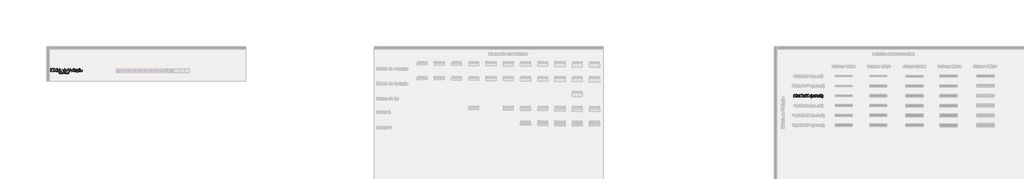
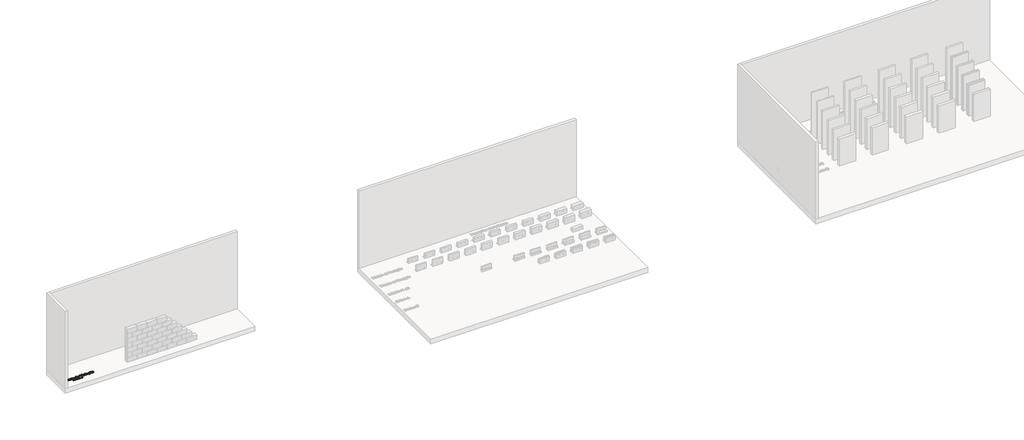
# One storey, part 15 of 26: 3 proxies.
"""IFC4 building model written with IfcOpenShell, lengths in millimetres."""

from ifc_helpers import new_model, si_unit, origin, origin_with_axes, place, context, project, spatial, polyline, outline, extrude, element, save

model = new_model("IFC4")

# Units and contexts
model_context = context("Model", 3, world=origin())
ifc_project = project(units=[si_unit("LENGTHUNIT", "METRE", prefix="MILLI")], contexts=[model_context])

# Site, building, storey
site = spatial("IfcSite", under=ifc_project)
building = spatial("IfcBuilding", under=site)
storey = spatial("IfcBuildingStorey", under=building, Name="Catálogo Celucon", Elevation=0.0)

# Proxies
placement = place(None, origin())
element("IfcBuildingElementProxy", 1, Name="Legenda Tabela de Módulos", ObjectType="Legenda Tabela de Módulos", at=placement, inside=storey, context=model_context, shape_type="SweptSolid", body=[
    extrude(outline(polyline([(-35045.4519368, 905.3239878), (-35045.4519368, 1056.0084531), (-35013.041533, 1056.0084531), (-34982.2130218, 949.800921), (-34975.9958161, 927.6176367), (-34969.2635756, 951.640331), (-34938.9500992, 1056.0084531), (-34906.5396954, 1056.0084531), (-34906.5396954, 905.3239878), (-34925.3752536, 905.3239878), (-34925.3752536, 1037.1728949), (-34963.2303109, 905.3239878), (-34988.7613214, 905.3239878), (-35026.6163787, 1037.1728949), (-35026.6163787, 905.3239878), (-35045.4519368, 905.3239878)])), origin_with_axes(), (0.0, 0.0, 1.0), 20.0),
    extrude(outline(polyline([(-34880.640803, 960.6534399), (-34876.5665099, 987.3340816), (-34864.3436306, 1006.0868663), (-34849.2420747, 1015.2747191), (-34831.1606746, 1018.3373367), (-34811.3732218, 1014.607933), (-34795.5680916, 1003.4197218), (-34785.2076149, 985.65562), (-34781.7541227, 962.1985443), (-34783.280833, 943.1698481), (-34787.8609638, 928.6844945), (-34795.361158, 917.8365742), (-34805.6480583, 909.7201777), (-34817.866339, 904.6572017), (-34831.1606746, 902.9695431), (-34851.1872507, 906.6851512), (-34866.9739869, 917.8319757), (-34877.2240989, 935.968558), (-34880.640803, 960.6534399)]), holes=[polyline([(-34861.8052448, 960.6902281), (-34859.625544, 943.6434962), (-34853.0864415, 931.4987918), (-34843.2455982, 924.2285239), (-34831.1606746, 921.8051012), (-34819.1309334, 924.2423194), (-34809.3084841, 931.5539741), (-34802.7693816, 943.8596268), (-34800.5896808, 961.2788393), (-34802.7831772, 977.8289306), (-34809.3636664, 989.808088), (-34819.1999113, 997.078356), (-34831.1606746, 999.5017786), (-34843.2455982, 997.087553), (-34853.0864415, 989.8448762), (-34859.625544, 977.727763), (-34861.8052448, 960.6902281)])]), origin_with_axes(), (0.0, 0.0, 1.0), 20.0),
    extrude(outline(polyline([(-34845.3241314, 1027.7551158), (-34831.1974628, 1056.0084531), (-34807.6530151, 1056.0084531), (-34831.1974628, 1027.7551158), (-34845.3241314, 1027.7551158)])), origin_with_axes(), (0.0, 0.0, 1.0), 20.0),
    extrude(outline(polyline([(-34692.2852214, 905.3239878), (-34692.2852214, 923.0926882), (-34704.747224, 908.0003293), (-34721.9732985, 902.9695431), (-34734.1501925, 904.7905589), (-34745.297017, 910.2536066), (-34754.7331901, 918.9770084), (-34761.7781303, 930.5790868), (-34766.1651231, 944.5907923), (-34767.6274541, 960.5430753), (-34762.2379828, 990.5254579), (-34755.5057423, 1002.4172434), (-34746.0879632, 1011.1636378), (-34734.697417, 1016.543912), (-34722.0468749, 1018.3373367), (-34704.6828447, 1013.2053829), (-34692.2852214, 999.8696606), (-34692.2852214, 1056.0084531), (-34673.4496633, 1056.0084531), (-34673.4496633, 905.3239878), (-34692.2852214, 905.3239878)]), holes=[polyline([(-34748.7918959, 960.6166517), (-34746.6673774, 943.5791168), (-34740.2938218, 931.4620036), (-34731.0323926, 924.2193268), (-34720.2442531, 921.8051012), (-34709.4607121, 924.1089622), (-34700.4338076, 931.0205452), (-34694.322368, 942.6686089), (-34692.2852214, 959.1819119), (-34694.3591562, 977.2357208), (-34700.5809604, 989.7529057), (-34709.8377911, 997.0645604), (-34721.0168053, 999.5017786), (-34731.9153094, 997.1611294), (-34740.8456448, 990.1391818), (-34746.8053331, 978.0772509), (-34748.7918959, 960.6166517)])]), origin_with_axes(), (0.0, 0.0, 1.0), 20.0),
    extrude(outline(polyline([(-34574.562983, 905.3239878), (-34574.562983, 924.343487), (-34589.315051, 908.313029), (-34608.5552793, 902.9695431), (-34626.2687974, 906.7219394), (-34638.4824797, 916.1397185), (-34644.0926801, 930.0088697), (-34645.1963261, 947.5200527), (-34645.1963261, 1015.982892), (-34626.3607679, 1015.982892), (-34626.3607679, 956.3860088), (-34625.2203337, 937.1825686), (-34617.7707233, 925.9069855), (-34603.7360252, 921.8051012), (-34588.0090699, 925.998956), (-34577.6164036, 937.4216919), (-34574.562983, 958.4093597), (-34574.562983, 1015.982892), (-34555.7274248, 1015.982892), (-34555.7274248, 905.3239878), (-34574.562983, 905.3239878)])), origin_with_axes(), (0.0, 0.0, 1.0), 20.0),
    extrude(outline(polyline([(-34529.8285324, 905.3239878), (-34529.8285324, 1056.0084531), (-34510.9929742, 1056.0084531), (-34510.9929742, 905.3239878), (-34529.8285324, 905.3239878)])), origin_with_axes(), (0.0, 0.0, 1.0), 20.0),
    extrude(outline(polyline([(-34487.4485265, 960.6534399), (-34483.3742334, 987.3340816), (-34471.1513541, 1006.0868663), (-34456.0497982, 1015.2747191), (-34437.9683982, 1018.3373367), (-34418.1809454, 1014.607933), (-34402.3758151, 1003.4197218), (-34392.0153385, 985.65562), (-34388.5618462, 962.1985443), (-34390.0885565, 943.1698481), (-34394.6686873, 928.6844945), (-34402.1688815, 917.8365742), (-34412.4557818, 909.7201777), (-34424.6740626, 904.6572017), (-34437.9683982, 902.9695431), (-34457.9949743, 906.6851512), (-34473.7817104, 917.8319757), (-34484.0318225, 935.968558), (-34487.4485265, 960.6534399)]), holes=[polyline([(-34468.6129684, 960.6902281), (-34466.4332676, 943.6434962), (-34459.8941651, 931.4987918), (-34450.0533217, 924.2285239), (-34437.9683982, 921.8051012), (-34425.9386569, 924.2423194), (-34416.1162077, 931.5539741), (-34409.5771052, 943.8596268), (-34407.3974044, 961.2788393), (-34409.5909008, 977.8289306), (-34416.17139, 989.808088), (-34426.0076348, 997.078356), (-34437.9683982, 999.5017786), (-34450.0533217, 997.087553), (-34459.8941651, 989.8448762), (-34466.4332676, 977.727763), (-34468.6129684, 960.6902281)])]), origin_with_axes(), (0.0, 0.0, 1.0), 20.0),
    extrude(outline(polyline([(-34240.2318258, 905.3239878), (-34240.2318258, 923.0926882), (-34252.6938284, 908.0003293), (-34269.9199028, 902.9695431), (-34282.0967968, 904.7905589), (-34293.2436213, 910.2536066), (-34302.6797945, 918.9770084), (-34309.7247347, 930.5790868), (-34314.1117275, 944.5907923), (-34315.5740584, 960.5430753), (-34310.1845872, 990.5254579), (-34303.4523466, 1002.4172434), (-34294.0345676, 1011.1636378), (-34282.6440213, 1016.543912), (-34269.9934792, 1018.3373367), (-34252.629449, 1013.2053829), (-34240.2318258, 999.8696606), (-34240.2318258, 1056.0084531), (-34221.3962676, 1056.0084531), (-34221.3962676, 905.3239878), (-34240.2318258, 905.3239878)]), holes=[polyline([(-34296.7385002, 960.6166517), (-34294.6139817, 943.5791168), (-34288.2404261, 931.4620036), (-34278.9789969, 924.2193268), (-34268.1908574, 921.8051012), (-34257.4073164, 924.1089622), (-34248.380412, 931.0205452), (-34242.2689723, 942.6686089), (-34240.2318258, 959.1819119), (-34242.3057605, 977.2357208), (-34248.5275648, 989.7529057), (-34257.7843955, 997.0645604), (-34268.9634096, 999.5017786), (-34279.8619137, 997.1611294), (-34288.7922491, 990.1391818), (-34294.7519375, 978.0772509), (-34296.7385002, 960.6166517)])]), origin_with_axes(), (0.0, 0.0, 1.0), 20.0),
    extrude(outline(polyline([(-34115.6669822, 938.2862146), (-34097.199306, 935.9317698), (-34103.8533716, 922.0166334), (-34114.4713657, 911.6147699), (-34128.814165, 905.1308498), (-34146.6426462, 902.9695431), (-34168.7431571, 906.6989468), (-34185.7485023, 917.887158), (-34196.5918241, 935.8076097), (-34200.2062647, 959.7337349), (-34196.5550359, 984.464602), (-34185.6013495, 1002.9598693), (-34168.8259305, 1014.4929699), (-34147.709504, 1018.3373367), (-34127.2506665, 1014.5021669), (-34110.9029104, 1002.9966575), (-34100.1837487, 984.5381784), (-34096.6106949, 959.8440995), (-34096.7210595, 954.767328), (-34181.3707065, 954.767328), (-34178.1103524, 940.6682505), (-34170.5365818, 930.3031753), (-34159.605888, 923.9296197), (-34146.2747642, 921.8051012), (-34127.807088, 925.7414386), (-34115.6669822, 938.2862146)]), holes=[polyline([(-34181.3707065, 973.6028861), (-34115.446253, 973.6028861), (-34117.9938358, 983.5540941), (-34122.9878339, 990.6726107), (-34133.9691115, 997.2944866), (-34147.7830804, 999.5017786), (-34160.4796077, 997.7405435), (-34170.9780402, 992.4568384), (-34178.2758993, 984.2208802), (-34181.3707065, 973.6028861)])]), origin_with_axes(), (0.0, 0.0, 1.0), 20.0),
    extrude(outline(polyline([(-33972.0458513, 905.3239878), (-34032.0106165, 1056.0084531), (-34011.8506832, 1056.0084531), (-33971.7147575, 947.4464763), (-33963.5845654, 922.9823236), (-33955.5647379, 947.4464763), (-33915.3184476, 1056.0084531), (-33895.1585143, 1056.0084531), (-33952.5848937, 905.3239878), (-33972.0458513, 905.3239878)])), origin_with_axes(), (0.0, 0.0, 1.0), 20.0),
    extrude(outline(polyline([(-33802.5258279, 938.2862146), (-33784.0581518, 935.9317698), (-33790.7122173, 922.0166334), (-33801.3302114, 911.6147699), (-33815.6730107, 905.1308498), (-33833.5014919, 902.9695431), (-33855.6020028, 906.6989468), (-33872.607348, 917.887158), (-33883.4506698, 935.8076097), (-33887.0651104, 959.7337349), (-33883.4138816, 984.464602), (-33872.4601952, 1002.9598693), (-33855.6847762, 1014.4929699), (-33834.5683497, 1018.3373367), (-33814.1095122, 1014.5021669), (-33797.7617561, 1002.9966575), (-33787.0425944, 984.5381784), (-33783.4695406, 959.8440995), (-33783.5799052, 954.767328), (-33868.2295523, 954.767328), (-33864.9691981, 940.6682505), (-33857.3954275, 930.3031753), (-33846.4647337, 923.9296197), (-33833.1336099, 921.8051012), (-33814.6659338, 925.7414386), (-33802.5258279, 938.2862146)]), holes=[polyline([(-33868.2295523, 973.6028861), (-33802.3050987, 973.6028861), (-33804.8526815, 983.5540941), (-33809.8466796, 990.6726107), (-33820.8279572, 997.2944866), (-33834.6419261, 999.5017786), (-33847.3384535, 997.7405435), (-33857.8368859, 992.4568384), (-33865.134745, 984.2208802), (-33868.2295523, 973.6028861)])]), origin_with_axes(), (0.0, 0.0, 1.0), 20.0),
    extrude(outline(polyline([(-33696.3550841, 905.3239878), (-33696.3550841, 923.0926882), (-33708.8170867, 908.0003293), (-33726.0431611, 902.9695431), (-33738.2200552, 904.7905589), (-33749.3668796, 910.2536066), (-33758.8030528, 918.9770084), (-33765.847993, 930.5790868), (-33770.2349858, 944.5907923), (-33771.6973167, 960.5430753), (-33766.3078455, 990.5254579), (-33759.575605, 1002.4172434), (-33750.1578259, 1011.1636378), (-33738.7672796, 1016.543912), (-33726.1167375, 1018.3373367), (-33708.7527073, 1013.2053829), (-33696.3550841, 999.8696606), (-33696.3550841, 1056.0084531), (-33677.519526, 1056.0084531), (-33677.519526, 905.3239878), (-33696.3550841, 905.3239878)]), holes=[polyline([(-33752.8617586, 960.6166517), (-33750.73724, 943.5791168), (-33744.3636845, 931.4620036), (-33735.1022552, 924.2193268), (-33724.3141157, 921.8051012), (-33713.5305748, 924.1089622), (-33704.5036703, 931.0205452), (-33698.3922307, 942.6686089), (-33696.3550841, 959.1819119), (-33698.4290189, 977.2357208), (-33704.6508231, 989.7529057), (-33713.9076538, 997.0645604), (-33725.0866679, 999.5017786), (-33735.985172, 997.1611294), (-33744.9155075, 990.1391818), (-33750.8751958, 978.0772509), (-33752.8617586, 960.6166517)])]), origin_with_axes(), (0.0, 0.0, 1.0), 20.0),
    extrude(outline(polyline([(-33578.6328456, 919.4506564), (-33596.8981867, 906.6851512), (-33617.0765141, 902.9695431), (-33632.817265, 905.2044262), (-33644.4285405, 911.9090755), (-33651.5884438, 922.0902098), (-33653.9750783, 934.7545474), (-33650.3698347, 949.6537682), (-33640.8968733, 960.4694989), (-33627.7083038, 966.6499164), (-33611.4111314, 969.4826078), (-33578.7432102, 975.9573309), (-33578.6328456, 980.1511856), (-33579.9296297, 988.5572892), (-33583.8199818, 994.0571251), (-33592.520391, 998.1406152), (-33604.6421027, 999.5017786), (-33623.6983901, 995.8781409), (-33632.7850753, 983.0206652), (-33651.6206335, 985.37511), (-33643.4720473, 1003.7692097), (-33627.0645103, 1014.5481522), (-33602.2140815, 1018.3373367), (-33579.3870037, 1014.9896106), (-33566.4927398, 1006.583507), (-33560.7169925, 993.7996077), (-33559.7972875, 977.3184943), (-33559.7972875, 953.8844112), (-33558.8407943, 921.1613077), (-33555.088398, 905.3239878), (-33573.9239561, 905.3239878), (-33578.6328456, 919.4506564)]), holes=[polyline([(-33578.6328456, 957.1217728), (-33609.0198985, 951.3460254), (-33625.2251003, 948.2926049), (-33632.5643461, 943.3261979), (-33635.1395201, 936.0789226), (-33629.5293197, 925.8885914), (-33613.0666004, 921.8051012), (-33594.010313, 926.3116557), (-33581.7230544, 937.2193568), (-33578.7432102, 951.7874838), (-33578.6328456, 957.1217728)])]), origin_with_axes(), (0.0, 0.0, 1.0), 20.0),
    extrude(outline(polyline([(-33463.265052, 945.3495489), (-33444.4294938, 942.9951041), (-33449.6810093, 926.2426778), (-33459.5494438, 913.5829386), (-33473.1058953, 905.622892), (-33489.9130554, 903.06037), (-33492.5484588, 895.0968684), (-33477.8147849, 890.0936732), (-33472.682831, 881.0805643), (-33474.5406351, 874.3299297), (-33480.1140473, 868.4254237), (-33489.4398559, 864.3143424), (-33502.554849, 862.943982), (-33517.4172817, 862.943982), (-33517.4172817, 874.7162058), (-33507.0062212, 874.7162058), (-33492.3645178, 876.8867096), (-33489.1639444, 880.9334115), (-33490.4515314, 883.600556), (-33495.2156032, 885.5871188), (-33506.233669, 886.4884297), (-33500.9968545, 905.1082144), (-33509.457235, 906.6713556), (-33525.1244095, 917.7767934), (-33535.2365658, 935.7984126), (-33538.6072846, 960.2487697), (-33537.1679463, 977.0103931), (-33532.8499313, 991.5371334), (-33525.5842619, 1003.2679705), (-33515.3019602, 1011.6418844), (-33503.000906, 1016.6634737), (-33489.6789792, 1018.3373367), (-33473.7634844, 1016.0380743), (-33461.0393659, 1009.1402869), (-33451.9112939, 998.0118565), (-33446.7839386, 983.0206652), (-33465.6194967, 980.6662204), (-33474.3566941, 994.774495), (-33489.5318264, 999.5017786), (-33501.7041219, 997.174925), (-33511.3656228, 990.1943641), (-33517.6702005, 978.183017), (-33519.7717264, 960.7638045), (-33517.7161858, 943.1100673), (-33511.5495638, 931.0573334), (-33502.0628069, 924.1181593), (-33490.0468612, 921.8051012), (-33480.2933898, 923.249038), (-33472.2965549, 927.5808485), (-33466.4794209, 934.9108973), (-33463.265052, 945.3495489)])), origin_with_axes(), (0.0, 0.0, 1.0), 20.0),
    extrude(outline(polyline([(-33357.3150374, 919.4506564), (-33375.5803784, 906.6851512), (-33395.7587058, 902.9695431), (-33411.4994567, 905.2044262), (-33423.1107322, 911.9090755), (-33430.2706355, 922.0902098), (-33432.65727, 934.7545474), (-33429.0520264, 949.6537682), (-33419.579065, 960.4694989), (-33406.3904955, 966.6499164), (-33390.0933231, 969.4826078), (-33357.4254019, 975.9573309), (-33357.3150374, 980.1511856), (-33358.6118214, 988.5572892), (-33362.5021735, 994.0571251), (-33371.2025827, 998.1406152), (-33383.3242944, 999.5017786), (-33402.3805818, 995.8781409), (-33411.467267, 983.0206652), (-33430.3028252, 985.37511), (-33422.154239, 1003.7692097), (-33405.746702, 1014.5481522), (-33380.8962732, 1018.3373367), (-33358.0691954, 1014.9896106), (-33345.1749315, 1006.583507), (-33339.3991842, 993.7996077), (-33338.4794792, 977.3184943), (-33338.4794792, 953.8844112), (-33337.522986, 921.1613077), (-33333.7705897, 905.3239878), (-33352.6061478, 905.3239878), (-33357.3150374, 919.4506564)]), holes=[polyline([(-33357.3150374, 957.1217728), (-33387.7020902, 951.3460254), (-33403.907292, 948.2926049), (-33411.2465378, 943.3261979), (-33413.8217118, 936.0789226), (-33408.2115114, 925.8885914), (-33391.7487921, 921.8051012), (-33372.6925047, 926.3116557), (-33360.4052461, 937.2193568), (-33357.4254019, 951.7874838), (-33357.3150374, 957.1217728)])]), origin_with_axes(), (0.0, 0.0, 1.0), 20.0),
    extrude(outline(polyline([(-33416.1761566, 1027.7551158), (-33414.7506138, 1039.3342016), (-33410.3268329, 1048.3197194), (-33403.6589717, 1054.0862696), (-33395.3540357, 1056.0084531), (-33380.2708738, 1049.9384001), (-33372.6557165, 1046.590674), (-33368.6641969, 1048.4852663), (-33366.7328164, 1056.0084531), (-33350.251703, 1056.0084531), (-33351.8933764, 1043.647618), (-33356.2297855, 1034.8184501), (-33362.681516, 1029.5209494), (-33370.6691538, 1027.7551158), (-33385.5683746, 1033.4940749), (-33393.5146257, 1037.1728949), (-33398.002786, 1034.7816619), (-33399.6950432, 1027.7551158), (-33416.1761566, 1027.7551158)])), origin_with_axes(), (0.0, 0.0, 1.0), 20.0),
    extrude(outline(polyline([(-33317.2894763, 960.6534399), (-33313.2151832, 987.3340816), (-33300.9923039, 1006.0868663), (-33285.890748, 1015.2747191), (-33267.8093479, 1018.3373367), (-33248.0218951, 1014.607933), (-33232.2167649, 1003.4197218), (-33221.8562882, 985.65562), (-33218.402796, 962.1985443), (-33219.9295063, 943.1698481), (-33224.5096371, 928.6844945), (-33232.0098313, 917.8365742), (-33242.2967316, 909.7201777), (-33254.5150123, 904.6572017), (-33267.8093479, 902.9695431), (-33287.835924, 906.6851512), (-33303.6226602, 917.8319757), (-33313.8727722, 935.968558), (-33317.2894763, 960.6534399)]), holes=[polyline([(-33298.4539181, 960.6902281), (-33296.2742173, 943.6434962), (-33289.7351148, 931.4987918), (-33279.8942715, 924.2285239), (-33267.8093479, 921.8051012), (-33255.7796067, 924.2423194), (-33245.9571574, 931.5539741), (-33239.4180549, 943.8596268), (-33237.2383541, 961.2788393), (-33239.4318505, 977.8289306), (-33246.0123397, 989.808088), (-33255.8485846, 997.078356), (-33267.8093479, 999.5017786), (-33279.8942715, 997.087553), (-33289.7351148, 989.8448762), (-33296.2742173, 977.727763), (-33298.4539181, 960.6902281)])]), origin_with_axes(), (0.0, 0.0, 1.0), 20.0),
])
element("IfcBuildingElementProxy", 2, Name="Dimensões", ObjectType="Dimensões", at=placement, inside=storey, context=model_context, shape_type="SweptSolid", body=[
    extrude(outline(polyline([(-34514.9609767, 788.5616779), (-34514.9609767, 782.2831585), (-34547.9232035, 782.2831585), (-34547.2487532, 786.6119033), (-34543.4350432, 793.2766988), (-34535.5746312, 800.5546309), (-34524.7343751, 811.0147423), (-34522.024311, 818.1271275), (-34524.5810909, 823.8844808), (-34531.2581491, 826.2327942), (-34538.2172502, 823.9396631), (-34540.8598692, 817.59983), (-34547.1383886, 818.3846449), (-34542.3252658, 828.8938073), (-34531.1232591, 832.5113136), (-34519.8844641, 828.4891371), (-34515.7457917, 818.5072723), (-34516.8617004, 812.5537153), (-34520.5711772, 806.3978233), (-34529.5658919, 797.7955159), (-34536.7886418, 791.7561199), (-34539.6213331, 788.5616779), (-34514.9609767, 788.5616779)])), origin_with_axes(), (0.0, 0.0, 1.0), 20.0),
    extrude(outline(polyline([(-34508.6824574, 806.9925658), (-34506.836916, 821.4441969), (-34501.3554743, 829.7767241), (-34492.201344, 832.5113136), (-34484.8682295, 830.8926328), (-34479.8037207, 826.2266628), (-34476.8606648, 818.7954465), (-34475.7202306, 806.9925658), (-34477.5473778, 792.6022485), (-34483.0104255, 784.2513272), (-34492.201344, 781.4983436), (-34503.6792622, 786.2808095), (-34507.4316586, 794.7758179), (-34508.6824574, 806.9925658)]), holes=[polyline([(-34502.403938, 807.0048286), (-34499.460882, 791.4127633), (-34492.201344, 787.7768629), (-34484.9418059, 791.4250261), (-34481.99875, 807.0048286), (-34484.8437041, 822.4190842), (-34492.2749204, 826.2327942), (-34499.3627801, 822.8728053), (-34502.403938, 807.0048286)])]), origin_with_axes(), (0.0, 0.0, 1.0), 20.0),
    extrude(outline(polyline([(-34472.5809709, 782.2831585), (-34459.1655408, 800.824411), (-34471.796156, 819.1694599), (-34464.2423123, 819.1694599), (-34458.1477339, 810.340292), (-34455.3027799, 806.1709627), (-34452.8379705, 809.5800025), (-34445.8972635, 819.1694599), (-34438.3434199, 819.1694599), (-34451.6116972, 800.824411), (-34438.8339292, 782.2831585), (-34446.3877728, 782.2831585), (-34454.0765065, 793.4299829), (-34455.4867208, 795.4655966), (-34465.0271273, 782.2831585), (-34472.5809709, 782.2831585)])), origin_with_axes(), (0.0, 0.0, 1.0), 20.0),
    extrude(outline(polyline([(-34434.9098546, 795.6250122), (-34428.6313352, 796.4098271), (-34425.1671131, 789.8002139), (-34418.6862586, 787.7768629), (-34411.0588386, 790.5605034), (-34408.2261472, 797.4521594), (-34411.0343131, 803.9452766), (-34418.1712238, 806.5143192), (-34422.573545, 805.8276062), (-34421.8745692, 812.1061256), (-34413.7443771, 813.8351709), (-34410.580592, 819.3779263), (-34412.8737231, 824.289151), (-34418.7843605, 826.2327942), (-34424.7685743, 824.2707569), (-34427.8465203, 818.3846449), (-34434.1250397, 819.1694599), (-34428.9869545, 829.0164346), (-34419.0050897, 832.5113136), (-34411.4328519, 830.7883996), (-34406.1353512, 826.07951), (-34404.3020726, 819.7458083), (-34406.0433807, 813.9577983), (-34411.1937286, 809.8007317), (-34404.3511235, 805.5087751), (-34401.9476278, 797.3417948), (-34406.7546192, 786.1091312), (-34418.9069878, 781.4983436), (-34429.9189222, 785.4346809), (-34434.9098546, 795.6250122)])), origin_with_axes(), (0.0, 0.0, 1.0), 20.0),
    extrude(outline(polyline([(-34396.4539234, 806.9925658), (-34394.608382, 821.4441969), (-34389.1269403, 829.7767241), (-34379.97281, 832.5113136), (-34372.6396955, 830.8926328), (-34367.5751867, 826.2266628), (-34364.6321308, 818.7954465), (-34363.4916966, 806.9925658), (-34365.3188438, 792.6022485), (-34370.7818915, 784.2513272), (-34379.97281, 781.4983436), (-34391.4507282, 786.2808095), (-34395.2031246, 794.7758179), (-34396.4539234, 806.9925658)]), holes=[polyline([(-34390.175404, 807.0048286), (-34387.232348, 791.4127633), (-34379.97281, 787.7768629), (-34372.7132719, 791.4250261), (-34369.770216, 807.0048286), (-34372.6151701, 822.4190842), (-34380.0463864, 826.2327942), (-34387.1342461, 822.8728053), (-34390.175404, 807.0048286)])]), origin_with_axes(), (0.0, 0.0, 1.0), 20.0),
    extrude(outline(polyline([(-34360.3524369, 782.2831585), (-34346.9370068, 800.824411), (-34359.567622, 819.1694599), (-34352.0137783, 819.1694599), (-34345.9192, 810.340292), (-34343.0742459, 806.1709627), (-34340.6094365, 809.5800025), (-34333.6687295, 819.1694599), (-34326.1148859, 819.1694599), (-34339.3831632, 800.824411), (-34326.6053952, 782.2831585), (-34334.1592388, 782.2831585), (-34341.8479725, 793.4299829), (-34343.2581869, 795.4655966), (-34352.7985933, 782.2831585), (-34360.3524369, 782.2831585)])), origin_with_axes(), (0.0, 0.0, 1.0), 20.0),
    extrude(outline(polyline([(-34290.5039087, 819.1694599), (-34296.7824281, 818.3846449), (-34299.1613984, 823.620832), (-34305.4521805, 826.2327942), (-34311.1175632, 824.7122153), (-34315.4033885, 819.003913), (-34317.1876161, 807.814169), (-34311.6509921, 812.8234955), (-34304.7899929, 814.4605703), (-34294.121415, 809.9846727), (-34289.7190938, 798.4209153), (-34291.7914957, 789.7572944), (-34297.4936667, 783.6259278), (-34305.7219606, 781.4983436), (-34318.5181227, 787.1392008), (-34322.2291323, 794.6072053), (-34323.4661355, 805.7295043), (-34322.0927094, 818.2344265), (-34317.9724311, 826.7846172), (-34312.3469022, 831.0796395), (-34305.059773, 832.5113136), (-34295.1392219, 828.9673837), (-34290.5039087, 819.1694599)]), holes=[polyline([(-34317.1876161, 798.5190172), (-34315.7344822, 793.080495), (-34311.8717213, 789.131895), (-34306.2124699, 787.7768629), (-34298.8119105, 790.5850288), (-34295.9976132, 798.2124489), (-34298.7751223, 805.5149065), (-34306.4699873, 808.1820509), (-34314.0667505, 805.5149065), (-34317.1876161, 798.5190172)])]), origin_with_axes(), (0.0, 0.0, 1.0), 20.0),
    extrude(outline(polyline([(-34284.2253894, 806.9925658), (-34282.379848, 821.4441969), (-34276.8984063, 829.7767241), (-34267.744276, 832.5113136), (-34260.4111615, 830.8926328), (-34255.3466527, 826.2266628), (-34252.4035968, 818.7954465), (-34251.2631626, 806.9925658), (-34253.0903098, 792.6022485), (-34258.5533575, 784.2513272), (-34267.744276, 781.4983436), (-34279.2221942, 786.2808095), (-34282.9745906, 794.7758179), (-34284.2253894, 806.9925658)]), holes=[polyline([(-34277.94687, 807.0048286), (-34275.003814, 791.4127633), (-34267.744276, 787.7768629), (-34260.4847379, 791.4250261), (-34257.541682, 807.0048286), (-34260.3866361, 822.4190842), (-34267.8178524, 826.2327942), (-34274.9057122, 822.8728053), (-34277.94687, 807.0048286)])]), origin_with_axes(), (0.0, 0.0, 1.0), 20.0),
    extrude(outline(polyline([(-34212.0224164, 768.1564899), (-34220.9374235, 782.8840324), (-34224.5794552, 800.3706899), (-34221.8571284, 815.6377927), (-34212.0224164, 832.5113136), (-34207.3135269, 832.5113136), (-34213.1873761, 822.566237), (-34216.7190432, 812.9277287), (-34218.3009358, 800.3339017), (-34215.5540836, 784.2390644), (-34207.3135269, 768.1564899), (-34212.0224164, 768.1564899)])), origin_with_axes(), (0.0, 0.0, 1.0), 20.0),
    extrude(outline(polyline([(-34200.2501926, 782.2831585), (-34200.2501926, 832.5113136), (-34193.9716732, 832.5113136), (-34193.9716732, 788.5616779), (-34168.8575957, 788.5616779), (-34168.8575957, 782.2831585), (-34200.2501926, 782.2831585)])), origin_with_axes(), (0.0, 0.0, 1.0), 20.0),
    extrude(outline(polyline([(-34132.3269136, 782.2831585), (-34112.2773448, 832.5113136), (-34106.9307932, 832.5113136), (-34086.8812244, 782.2831585), (-34093.5153631, 782.2831585), (-34099.2665849, 797.9794569), (-34119.9538158, 797.9794569), (-34125.6927749, 782.2831585), (-34132.3269136, 782.2831585)]), holes=[polyline([(-34117.6484219, 804.2579763), (-34101.559716, 804.2579763), (-34106.0846646, 816.6065486), (-34109.604069, 826.2327942), (-34112.7310659, 817.6856692), (-34117.6484219, 804.2579763)])]), origin_with_axes(), (0.0, 0.0, 1.0), 20.0),
    extrude(outline(polyline([(-34166.5031509, 782.2831585), (-34153.0877208, 800.824411), (-34165.718336, 819.1694599), (-34158.1644923, 819.1694599), (-34152.069914, 810.340292), (-34149.2249599, 806.1709627), (-34146.7601505, 809.5800025), (-34139.8194435, 819.1694599), (-34132.2655999, 819.1694599), (-34145.5338772, 800.824411), (-34132.7561092, 782.2831585), (-34140.3099528, 782.2831585), (-34147.9986865, 793.4299829), (-34149.4089009, 795.4655966), (-34158.9493073, 782.2831585), (-34166.5031509, 782.2831585)])), origin_with_axes(), (0.0, 0.0, 1.0), 20.0),
    extrude(outline(polyline([(-34084.8823989, 782.2831585), (-34071.4669688, 800.824411), (-34084.097584, 819.1694599), (-34076.5437404, 819.1694599), (-34070.449162, 810.340292), (-34067.6042079, 806.1709627), (-34065.1393985, 809.5800025), (-34058.1986915, 819.1694599), (-34050.6448479, 819.1694599), (-34063.9131252, 800.824411), (-34051.1353572, 782.2831585), (-34058.6892009, 782.2831585), (-34066.3779346, 793.4299829), (-34067.7881489, 795.4655966), (-34077.3285553, 782.2831585), (-34084.8823989, 782.2831585)])), origin_with_axes(), (0.0, 0.0, 1.0), 20.0),
    extrude(outline(polyline([(-34009.5401663, 800.137698), (-34003.2616469, 798.5190172), (-34010.7051259, 785.8577452), (-34023.8507759, 781.4983436), (-34036.9167181, 784.7970188), (-34044.5809263, 794.3496879), (-34047.2112826, 807.7773808), (-34044.2375698, 821.4258028), (-34035.7824153, 830.2733648), (-34023.7158858, 833.2961285), (-34011.140453, 829.3843166), (-34004.0464618, 818.3723822), (-34010.3249812, 816.8763288), (-34015.4753292, 824.5957193), (-34023.9611405, 827.0176091), (-34033.7835898, 824.3320705), (-34039.3324765, 817.1215834), (-34040.9327632, 807.7896435), (-34039.0381709, 796.9739128), (-34033.1397963, 790.0638627), (-34024.4761753, 787.7768629), (-34014.8683239, 790.8915972), (-34009.5401663, 800.137698)])), origin_with_axes(), (0.0, 0.0, 1.0), 20.0),
    extrude(outline(polyline([(-33993.8438678, 768.1564899), (-33998.5527574, 768.1564899), (-33990.3122007, 784.2390644), (-33987.5653485, 800.3339017), (-33989.147241, 812.8173641), (-33992.64212, 822.4681351), (-33998.5527574, 832.5113136), (-33993.8438678, 832.5113136), (-33984.0091558, 815.6377927), (-33981.2868291, 800.3706899), (-33984.9472549, 782.8840324), (-33993.8438678, 768.1564899)])), origin_with_axes(), (0.0, 0.0, 1.0), 20.0),
])
element("IfcBuildingElementProxy", 3, Name="Legenda Tabela de Módulos", ObjectType="Legenda Tabela de Módulos", at=placement, inside=storey, context=model_context, shape_type="SweptSolid", body=[
    extrude(outline(polyline([(8064.530611, -512.6861609), (8065.914767, -488.5668976), (8070.067235, -469.3312678), (8076.9466283, -454.6849658), (8086.5115602, -444.3336862), (8098.8310085, -438.1808598), (8113.9739511, -436.1299177), (8135.9732944, -440.98596), (8151.1668208, -454.98387), (8159.9959887, -477.2775189), (8163.4172913, -512.6861609), (8162.0469309, -536.6674685), (8157.9358496, -555.857113), (8151.097843, -570.5172106), (8141.5467067, -580.9098769), (8129.1996672, -587.10409), (8113.9739511, -589.1688277), (8094.402629, -585.5819783), (8079.5401964, -574.8214299), (8068.2830073, -549.3364047), (8064.530611, -512.6861609)]), holes=[polyline([(8083.3661691, -512.6493727), (8085.5734611, -542.2776689), (8092.195337, -559.4255684), (8102.0545745, -567.6063443), (8113.9739511, -570.3332696), (8125.8933278, -567.5971472), (8135.7525652, -559.3887802), (8142.3744412, -542.2316836), (8144.5817331, -512.6493727), (8142.4480176, -483.6878626), (8136.0468708, -466.4066059), (8126.2060275, -457.8257584), (8113.7532219, -454.9654759), (8101.962604, -457.4854675), (8092.4896426, -465.0454425), (8085.6470375, -483.4027541), (8083.3661691, -512.6493727)])]), origin_with_axes(), (0.0, 0.0, 1.0), 20.0),
    extrude(outline(polyline([(8182.2528494, -549.1432666), (8201.0884076, -546.7888219), (8204.3073751, -557.4803923), (8209.5496935, -564.7598573), (8216.6866042, -568.9399165), (8225.5893485, -570.3332696), (8240.8380572, -566.7464201), (8251.1755412, -557.1630941), (8257.3375647, -540.7923453), (8260.0598914, -518.9401548), (8259.9495268, -515.2613349), (8244.8847591, -529.5351563), (8224.2281851, -535.016598), (8207.0526944, -531.6688719), (8192.7558804, -521.6256934), (8183.1127736, -506.1102702), (8179.8984047, -486.3458101), (8183.2691235, -465.9283593), (8193.3812798, -449.9254925), (8208.5702077, -439.5788114), (8227.1712411, -436.1299177), (8241.2197347, -438.0980864), (8254.0082326, -444.0025924), (8264.7044016, -453.5491302), (8272.4759088, -466.4433941), (8277.2077909, -484.2672768), (8278.785085, -508.6026708), (8277.2123894, -534.4049942), (8272.4943029, -554.3487969), (8264.6722119, -569.3353896), (8253.7875034, -580.2660834), (8240.3092268, -586.9431416), (8224.7064317, -589.1688277), (8208.6023973, -586.54307), (8195.7541187, -578.6657967), (8186.7686009, -566.0336487), (8182.2528494, -549.1432666)]), holes=[polyline([(8259.9495268, -485.9043517), (8257.9169788, -473.1388464), (8251.8193347, -463.3163972), (8242.3555704, -457.0532062), (8230.2246616, -454.9654759), (8217.6430974, -457.2141546), (8207.5631307, -463.9601906), (8200.9412548, -474.2838791), (8198.7339628, -487.265515), (8200.8216931, -498.9043817), (8207.0848841, -508.1428183), (8216.9165304, -514.1714845), (8229.7096268, -516.1810399), (8241.7439666, -514.1714845), (8251.4330586, -508.1428183), (8257.8204098, -498.5640908), (8259.9495268, -485.9043517)])]), origin_with_axes(), (0.0, 0.0, 1.0), 20.0),
    extrude(outline(polyline([(8288.2028641, -586.8143829), (8328.4491543, -531.1906253), (8290.5573088, -476.1554788), (8313.2188397, -476.1554788), (8331.5025749, -502.6429824), (8340.0374372, -515.1509703), (8347.4318653, -504.9238508), (8368.2539862, -476.1554788), (8390.9155171, -476.1554788), (8351.1106852, -531.1906253), (8389.4439891, -586.8143829), (8366.7824582, -586.8143829), (8343.7162571, -553.3739096), (8339.4856142, -547.2670685), (8310.864395, -586.8143829), (8288.2028641, -586.8143829)])), origin_with_axes(), (0.0, 0.0, 1.0), 20.0),
    extrude(outline(polyline([(8401.216213, -546.7888219), (8420.0517711, -544.4343771), (8424.2686185, -556.2709803), (8430.4444375, -564.2632166), (8438.8827308, -568.8157563), (8449.8870009, -570.3332696), (8462.799659, -568.2455392), (8472.769261, -561.9823483), (8479.1428166, -552.6381456), (8481.2673351, -541.3073801), (8479.1612107, -530.5514303), (8472.8428374, -521.8280285), (8463.2779056, -516.0476826), (8451.4321053, -514.1209007), (8438.2251417, -516.1810399), (8440.3220691, -497.3454817), (8443.3387014, -497.5662109), (8464.7126453, -492.1583456), (8471.8311619, -485.2973464), (8474.2040008, -475.5300794), (8472.4841525, -467.3952888), (8467.3246075, -460.7964055), (8459.4519328, -456.4232083), (8449.5926953, -454.9654759), (8439.7150638, -456.4370038), (8431.640054, -460.8515878), (8425.744745, -468.2092277), (8422.4062159, -478.5099236), (8403.5706577, -476.1554788), (8409.1164788, -459.2421041), (8418.9849133, -446.6145546), (8432.4861826, -438.7510769), (8448.9305077, -436.1299177), (8471.6472209, -441.2986597), (8487.5397231, -455.4253284), (8493.039559, -474.4264334), (8487.8156346, -491.7904636), (8472.3645908, -504.2616632), (8484.1552088, -509.0257351), (8492.8924062, -517.1375331), (8498.3002715, -528.1555988), (8500.1028933, -541.6384739), (8496.4976497, -559.9957855), (8485.6819191, -575.3364647), (8469.3571555, -585.710737), (8449.2248133, -589.1688277), (8431.0146546, -586.2165747), (8416.1890102, -577.3598157), (8405.8791173, -563.8125612), (8401.216213, -546.7888219)])), origin_with_axes(), (0.0, 0.0, 1.0), 20.0),
    extrude(outline(polyline([(8516.5840067, -512.6861609), (8517.9681627, -488.5668976), (8522.1206307, -469.3312678), (8529.000024, -454.6849658), (8538.5649559, -444.3336862), (8550.8844042, -438.1808598), (8566.0273468, -436.1299177), (8588.0266901, -440.98596), (8603.2202165, -454.98387), (8612.0493844, -477.2775189), (8615.470687, -512.6861609), (8614.1003265, -536.6674685), (8609.9892452, -555.857113), (8603.1512386, -570.5172106), (8593.6001023, -580.9098769), (8581.2530629, -587.10409), (8566.0273468, -589.1688277), (8546.4560247, -585.5819783), (8531.5935921, -574.8214299), (8520.336403, -549.3364047), (8516.5840067, -512.6861609)]), holes=[polyline([(8535.4195648, -512.6493727), (8537.6268568, -542.2776689), (8544.2487327, -559.4255684), (8554.1079702, -567.6063443), (8566.0273468, -570.3332696), (8577.9467235, -567.5971472), (8587.8059609, -559.3887802), (8594.4278368, -542.2316836), (8596.6351288, -512.6493727), (8594.5014132, -483.6878626), (8588.1002665, -466.4066059), (8578.2594231, -457.8257584), (8565.8066176, -454.9654759), (8554.0159997, -457.4854675), (8544.5430383, -465.0454425), (8537.7004332, -483.4027541), (8535.4195648, -512.6493727)])]), origin_with_axes(), (0.0, 0.0, 1.0), 20.0),
    extrude(outline(polyline([(8624.888466, -586.8143829), (8665.1347563, -531.1906253), (8627.2429108, -476.1554788), (8649.9044417, -476.1554788), (8668.1881769, -502.6429824), (8676.7230392, -515.1509703), (8684.1174673, -504.9238508), (8704.9395882, -476.1554788), (8727.6011191, -476.1554788), (8687.7962872, -531.1906253), (8726.1295911, -586.8143829), (8703.4680602, -586.8143829), (8680.4018591, -553.3739096), (8676.1712162, -547.2670685), (8647.5499969, -586.8143829), (8624.888466, -586.8143829)])), origin_with_axes(), (0.0, 0.0, 1.0), 20.0),
    extrude(outline(polyline([(8834.4340505, -476.1554788), (8815.5984923, -478.5099236), (8808.4615816, -462.8013624), (8799.9175223, -456.9244475), (8789.5892353, -454.9654759), (8772.5930871, -459.5272126), (8759.7356114, -476.6521195), (8755.8314637, -490.6822191), (8754.3829283, -510.2213515), (8770.9928004, -495.193372), (8791.5757981, -490.2821474), (8808.9766164, -493.6390706), (8823.5815316, -503.7098402), (8833.4867544, -519.0965047), (8836.7884953, -538.4011124), (8835.2341938, -551.888586), (8830.5712895, -564.3919753), (8823.1860585, -574.9961738), (8813.4647768, -582.7860751), (8801.8489028, -587.5731396), (8788.7798949, -589.1688277), (8767.4105495, -584.9381848), (8750.3914087, -572.2462559), (8739.2583798, -549.8422424), (8735.5473702, -516.4753455), (8739.6676485, -478.960579), (8752.0284836, -453.3100069), (8768.9050701, -440.42494), (8790.7664577, -436.1299177), (8807.2935563, -438.7878651), (8820.5281111, -446.7617074), (8829.7987374, -459.4260451), (8834.4340505, -476.1554788)]), holes=[polyline([(8754.3829283, -538.1068068), (8758.74233, -554.4223733), (8770.3306128, -566.2681735), (8787.3083669, -570.3332696), (8799.7381798, -568.2271451), (8809.5100453, -561.9087719), (8815.8422142, -551.975958), (8817.9529371, -539.0265118), (8815.8698053, -526.5966989), (8809.6204099, -517.119139), (8799.6829975, -511.1180639), (8786.5358147, -509.1177056), (8774.1243959, -511.1180639), (8763.7455251, -517.119139), (8756.7235775, -526.3667726), (8754.3829283, -538.1068068)])]), origin_with_axes(), (0.0, 0.0, 1.0), 20.0),
    extrude(outline(polyline([(8853.2696086, -512.6861609), (8854.6537646, -488.5668976), (8858.8062327, -469.3312678), (8865.685626, -454.6849658), (8875.2505579, -444.3336862), (8887.5700062, -438.1808598), (8902.7129488, -436.1299177), (8924.7122921, -440.98596), (8939.9058185, -454.98387), (8948.7349864, -477.2775189), (8952.1562889, -512.6861609), (8950.7859285, -536.6674685), (8946.6748472, -555.857113), (8939.8368406, -570.5172106), (8930.2857043, -580.9098769), (8917.9386649, -587.10409), (8902.7129488, -589.1688277), (8883.1416267, -585.5819783), (8868.279194, -574.8214299), (8857.022005, -549.3364047), (8853.2696086, -512.6861609)]), holes=[polyline([(8872.1051668, -512.6493727), (8874.3124588, -542.2776689), (8880.9343347, -559.4255684), (8890.7935722, -567.6063443), (8902.7129488, -570.3332696), (8914.6323254, -567.5971472), (8924.4915629, -559.3887802), (8931.1134388, -542.2316836), (8933.3207308, -512.6493727), (8931.1870152, -483.6878626), (8924.7858685, -466.4066059), (8914.9450251, -457.8257584), (8902.4922196, -454.9654759), (8890.7016017, -457.4854675), (8881.2286403, -465.0454425), (8874.3860352, -483.4027541), (8872.1051668, -512.6493727)])]), origin_with_axes(), (0.0, 0.0, 1.0), 20.0),
    extrude(outline(polyline([(9069.8785274, -629.1943888), (9055.2828092, -608.7125587), (9043.1335064, -585.0117612), (9034.9389349, -559.2416274), (9032.2074111, -532.5517886), (9034.2491562, -509.1452967), (9040.3743914, -486.7504802), (9052.5328913, -461.3850167), (9069.8785274, -436.1299177), (9084.005196, -436.1299177), (9066.3836484, -465.9651475), (9055.788647, -494.8806723), (9051.0429692, -532.6621532), (9053.1031084, -556.8090077), (9059.2835259, -580.9466651), (9069.5842218, -605.0751255), (9084.005196, -629.1943888), (9069.8785274, -629.1943888)])), origin_with_axes(), (0.0, 0.0, 1.0), 20.0),
    extrude(outline(polyline([(9105.1951989, -586.8143829), (9105.1951989, -436.1299177), (9124.0307571, -436.1299177), (9124.0307571, -567.9788248), (9199.3729897, -567.9788248), (9199.3729897, -586.8143829), (9105.1951989, -586.8143829)])), origin_with_axes(), (0.0, 0.0, 1.0), 20.0),
    extrude(outline(polyline([(9308.9650361, -586.8143829), (9369.1137423, -436.1299177), (9385.1533973, -436.1299177), (9445.3021035, -586.8143829), (9425.3996875, -586.8143829), (9408.146022, -539.7254876), (9346.0843294, -539.7254876), (9328.867452, -586.8143829), (9308.9650361, -586.8143829)]), holes=[polyline([(9353.0005109, -520.8899294), (9401.2666287, -520.8899294), (9387.691783, -483.8442125), (9377.1335698, -454.9654759), (9367.7525789, -480.6068509), (9353.0005109, -520.8899294)])]), origin_with_axes(), (0.0, 0.0, 1.0), 20.0),
    extrude(outline(polyline([(9206.436324, -586.8143829), (9246.6826143, -531.1906253), (9208.7907688, -476.1554788), (9231.4522997, -476.1554788), (9249.7360348, -502.6429824), (9258.2708971, -515.1509703), (9265.6653252, -504.9238508), (9286.4874462, -476.1554788), (9309.1489771, -476.1554788), (9269.3441452, -531.1906253), (9307.6774491, -586.8143829), (9285.0159182, -586.8143829), (9261.9497171, -553.3739096), (9257.7190741, -547.2670685), (9229.0978549, -586.8143829), (9206.436324, -586.8143829)])), origin_with_axes(), (0.0, 0.0, 1.0), 20.0),
    extrude(outline(polyline([(9451.29858, -586.8143829), (9491.5448703, -531.1906253), (9453.6530248, -476.1554788), (9476.3145557, -476.1554788), (9494.5982908, -502.6429824), (9503.1331531, -515.1509703), (9510.5275812, -504.9238508), (9531.3497022, -476.1554788), (9554.0112331, -476.1554788), (9514.2064012, -531.1906253), (9552.5397051, -586.8143829), (9529.8781742, -586.8143829), (9506.8119731, -553.3739096), (9502.5813301, -547.2670685), (9473.9601109, -586.8143829), (9451.29858, -586.8143829)])), origin_with_axes(), (0.0, 0.0, 1.0), 20.0),
    extrude(outline(polyline([(9677.3252778, -533.2507644), (9696.160836, -538.1068068), (9687.4696239, -560.0555663), (9673.8303989, -576.0906228), (9655.9145457, -585.8992765), (9634.393449, -589.1688277), (9612.545857, -586.6948213), (9595.1956224, -579.272802), (9581.8966883, -567.1602873), (9572.2029977, -550.6147946), (9566.2846961, -531.1630341), (9564.3119289, -510.3317161), (9566.5422135, -488.359964), (9573.2330673, -469.3864501), (9584.0350024, -454.0135812), (9598.5985309, -442.8437641), (9615.8705905, -436.0425457), (9634.7981192, -433.7754729), (9655.4500947, -436.7093319), (9672.5244178, -445.5109086), (9685.4876596, -459.6375772), (9693.8063912, -478.5467118), (9674.9708331, -483.0348721), (9668.4409277, -469.2990781), (9659.5197893, -459.8767005), (9648.0970533, -454.4274484), (9634.0623552, -452.6110311), (9617.8847445, -454.625185), (9604.5950074, -460.6676468), (9594.5104422, -470.10382), (9587.9483471, -482.2991081), (9583.1474871, -510.2949279), (9584.5684313, -527.6957463), (9588.8312639, -542.7421199), (9596.0969333, -554.8592331), (9606.5263879, -563.4722703), (9619.0297772, -568.6180198), (9632.5172508, -570.3332696), (9648.2396076, -567.9972189), (9661.3408051, -560.9890669), (9671.2322323, -549.3823899), (9677.3252778, -533.2507644)])), origin_with_axes(), (0.0, 0.0, 1.0), 20.0),
    extrude(outline(polyline([(9724.4141732, -629.1943888), (9710.2875046, -629.1943888), (9724.7084788, -605.0751255), (9735.0091747, -580.9466651), (9741.1895922, -556.8090077), (9743.2497314, -532.6621532), (9738.5040536, -495.2117661), (9728.0194168, -466.2594531), (9710.2875046, -436.1299177), (9724.4141732, -436.1299177), (9741.7598093, -461.3850167), (9753.9183092, -486.7504802), (9760.0435445, -509.1452967), (9762.0852895, -532.5517886), (9759.3399701, -559.2416274), (9751.104012, -585.0117612), (9738.9409135, -608.7125587), (9724.4141732, -629.1943888)])), origin_with_axes(), (0.0, 0.0, 1.0), 20.0),
])

save(model, "model.ifc")
